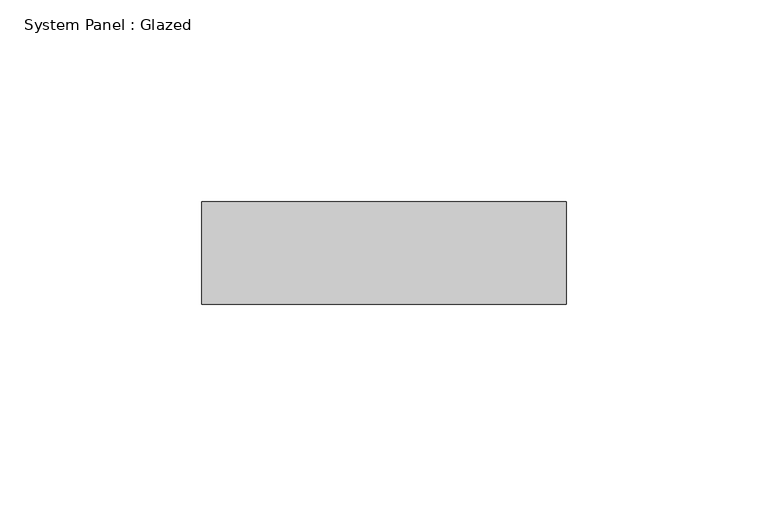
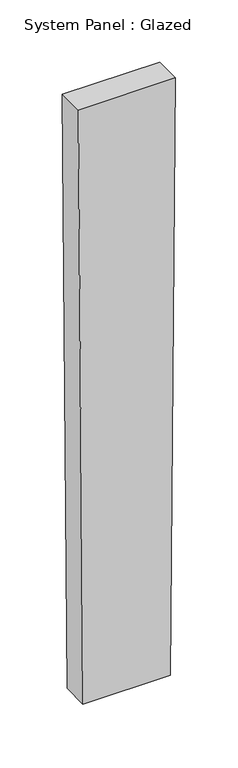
"""IFC4 building model written with IfcOpenShell, lengths in millimetres: plate geometry, System Panel : Glazed."""

from ifc_helpers import new_model, si_unit, frame, origin, place, context, project, spatial, polyline, outline, extrude, source, transform, mapped, element, save


def system_panel_glazed_55877d03(model_context):
    return source(origin(), model_context, "Body", "SweptSolid", [
        extrude(outline(polyline([(0.0, -40.5425861), (0.0, 40.5425861), (584.1811459, 45.1372475), (584.1811459, -45.1372475), (0.0, -40.5425861)])), frame((0.0, 19.05, 0.0), z_axis=(0.0, 1.0, 0.0), x_axis=(0.0, 0.0, 1.0)), (0.0, 0.0, 1.0), 25.4),
    ])


if __name__ == "__main__":
    model = new_model("IFC4")
    model_context = context("Model", 3, world=origin())
    ifc_project = project(units=[si_unit("LENGTHUNIT", "METRE", prefix="MILLI")], contexts=[model_context])
    site = spatial("IfcSite", under=ifc_project)
    building = spatial("IfcBuilding", under=site)
    placement = place(None, origin())
    system_panel_glazed_shape = system_panel_glazed_55877d03(model_context)
    element("IfcPlate", 1, ObjectType="System Panel : Glazed", at=placement, inside=building, context=model_context, shape_type="MappedRepresentation", body=[
        mapped(system_panel_glazed_shape, transform((0.0, 0.0, 0.0), x_axis=(1.0, 0.0, 0.0), y_axis=(0.0, 1.0, 0.0), z_axis=(0.0, 0.0, 1.0))),
    ])
    save(model, "model.ifc")
